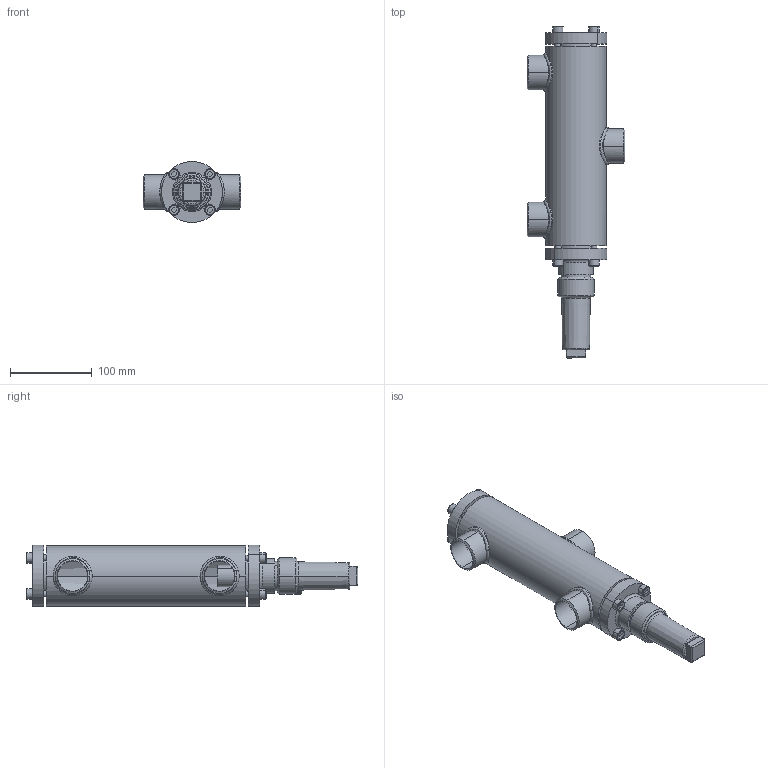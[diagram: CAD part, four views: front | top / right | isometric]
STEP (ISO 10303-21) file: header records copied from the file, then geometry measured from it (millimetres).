
FILE_DESCRIPTION (( 'STEP AP214' ), '1' );
FILE_NAME ('WVB23000D13-DN032_R1_PS40.STEP', '2010-09-08T08:11:47', ( 'Eckhard Grams' ), ( 'AWP Kälte Klima Armaturen GmbH' ), 'SwSTEP 2.0', 'SolidWorks 2002296', '' );
FILE_SCHEMA (( 'AUTOMOTIVE_DESIGN' ));
Length unit declared in the file: millimetre
Products named in the file (11): WVB23000D13-DN032_R1_PS40; WVB-R23000E13_Deck+Schr-DN25-32_Standard; Deckel23000E13-DN25-32_Standard; Kappe 16402-13_DN10-32 (M36x2)_Standard; AVB16300E13_Deck+Schr-DN25-32_Standard; Deckel16300E13-DN25-32_Standard; Zylinderschraube-DIN912_M 8x  25; Geh,kpl24000E13_DN32_R1_PS40_Standard; Gehäuse24000E13-DN32_R1_PS40_Standard; Rohrstutzen-24000E13-DN32_R1_Standard; Schw-24000E13-DN32_Standard
Assembly tree (21 placements, depth 3):
  WVB23000D13-DN032_R1_PS40
    WVB-R23000E13_Deck+Schr-DN25-32_Standard
      Deckel23000E13-DN25-32_Standard
      Zylinderschraube-DIN912_M 8x  25  x4
    Kappe 16402-13_DN10-32 (M36x2)_Standard
    AVB16300E13_Deck+Schr-DN25-32_Standard
      Deckel16300E13-DN25-32_Standard
      Zylinderschraube-DIN912_M 8x  25  x4
    Geh,kpl24000E13_DN32_R1_PS40_Standard
      Schw-24000E13-DN32_Standard  x3
      Rohrstutzen-24000E13-DN32_R1_Standard  x3
      Gehäuse24000E13-DN32_R1_PS40_Standard
Bounding box: 120 x 406.5 x 74.71 mm (x, y, z)
Volume: 943434.1 mm3; surface area: 190508.4 mm2
Topology: 18 solids, 18 shells, 397 faces, 905 edges, 571 vertices
Faces by surface type: cylinder 168, plane 131, cone 39, torus 37, bspline 22
Entity records: 21932 total; most frequent: CARTESIAN_POINT 15654, DIRECTION 1195, ORIENTED_EDGE 1098, EDGE_CURVE 549, AXIS2_PLACEMENT_3D 508, VERTEX_POINT 347, EDGE_LOOP 282, CIRCLE 262
